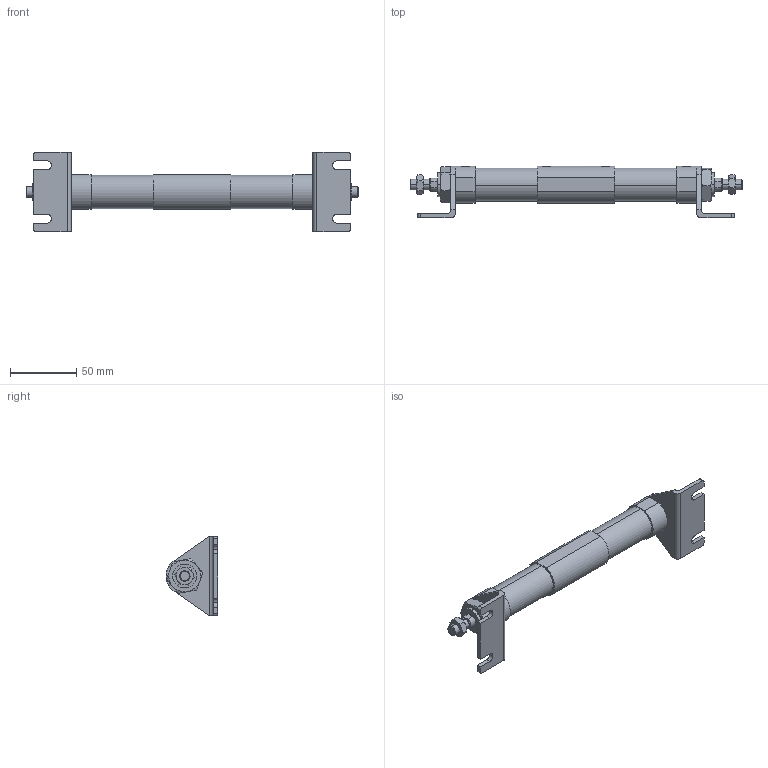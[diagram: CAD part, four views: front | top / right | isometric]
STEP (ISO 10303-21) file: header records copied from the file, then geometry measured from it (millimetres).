
FILE_DESCRIPTION (( 'STEP AP203' ), '1' );
FILE_NAME ('JGD7-20-15-15-L.STEP', '2016-04-19T07:21:10', ( '' ), ( '' ), 'SwSTEP 2.0', 'SolidWorks 2014', '' );
FILE_SCHEMA (( 'CONFIG_CONTROL_DESIGN' ));
Length unit declared in the file: millimetre
Products named in the file (7): M8x1.25-5mm; JGD2-20MI; JGLH2-20B; M18x1.5-8mm; J#2-20-L; 20-15; JGD7-20-15-15-L
Assembly tree (11 placements, depth 2):
  JGD7-20-15-15-L
    JGLH2-20B  x2
    20-15  x2
    M8x1.25-5mm  x2
    M18x1.5-8mm  x2
    J#2-20-L  x2
    JGD2-20MI
Bounding box: 250 x 39 x 60 mm (x, y, z)
Volume: 127540.6 mm3; surface area: 41184.4 mm2
Topology: 11 solids, 11 shells, 220 faces, 498 edges, 312 vertices
Faces by surface type: plane 98, cylinder 66, torus 48, cone 8
Entity records: 4590 total; most frequent: CARTESIAN_POINT 1125, DIRECTION 561, ORIENTED_EDGE 522, EDGE_CURVE 261, AXIS2_PLACEMENT_3D 228, VERTEX_POINT 164, EDGE_LOOP 129, FACE_OUTER_BOUND 116
